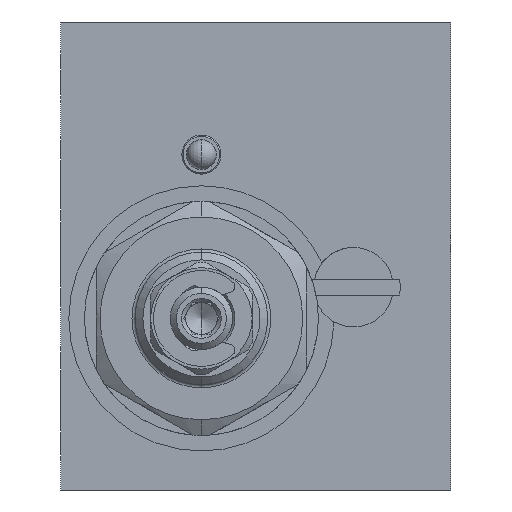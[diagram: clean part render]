
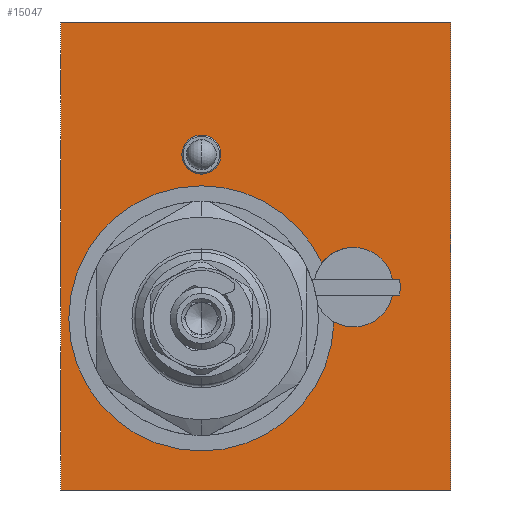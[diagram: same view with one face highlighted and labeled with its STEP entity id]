
A CAD part, left-side view. The second image highlights one B-rep face of the part: STEP entity #15047.
In plain terms, the highlighted planar face has unit normal (-1, 0, 0).
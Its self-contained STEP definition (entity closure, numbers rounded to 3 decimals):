
#146 = CARTESIAN_POINT ( 'NONE',  ( 0., 50., 0. ) ) ;
#383 = AXIS2_PLACEMENT_3D ( 'NONE', #9910, #11465, #18829 ) ;
#390 = CARTESIAN_POINT ( 'NONE',  ( 0., 6.584, 27. ) ) ;
#711 = EDGE_CURVE ( 'NONE', #12203, #8414, #2239, .T. ) ;
#778 = VECTOR ( 'NONE', #17911, 1000. ) ;
#1016 = VECTOR ( 'NONE', #19209, 1000. ) ;
#1263 = AXIS2_PLACEMENT_3D ( 'NONE', #16451, #16175, #16111 ) ;
#1472 = CARTESIAN_POINT ( 'NONE',  ( 0., 50., 60. ) ) ;
#1587 = CARTESIAN_POINT ( 'NONE',  ( 0., 16.552, 29.097 ) ) ;
#1720 = EDGE_CURVE ( 'NONE', #9050, #2004, #9265, .T. ) ;
#1901 = DIRECTION ( 'NONE',  ( 0., 0., 1. ) ) ;
#2004 = VERTEX_POINT ( 'NONE', #7353 ) ;
#2042 = DIRECTION ( 'NONE',  ( 0., 0., 1. ) ) ;
#2043 = EDGE_LOOP ( 'NONE', ( #3044, #17497 ) ) ;
#2239 = CIRCLE ( 'NONE', #12081, 17. ) ;
#2337 = DIRECTION ( 'NONE',  ( 0., 0., 1. ) ) ;
#2360 = DIRECTION ( 'NONE',  ( -1., 0., 0. ) ) ;
#2397 = CARTESIAN_POINT ( 'NONE',  ( 0., 12.5, 26. ) ) ;
#2519 = DIRECTION ( 'NONE',  ( -1., 0., 0. ) ) ;
#2631 = VERTEX_POINT ( 'NONE', #11890 ) ;
#2843 = LINE ( 'NONE', #14797, #14367 ) ;
#3009 = CARTESIAN_POINT ( 'NONE',  ( 0., 0., 0. ) ) ;
#3044 = ORIENTED_EDGE ( 'NONE', *, *, #15667, .F. ) ;
#3121 = CARTESIAN_POINT ( 'NONE',  ( 0., 0., 60. ) ) ;
#3289 = EDGE_CURVE ( 'NONE', #5112, #3503, #6640, .T. ) ;
#3344 = CARTESIAN_POINT ( 'NONE',  ( 0., 32., 40.5 ) ) ;
#3503 = VERTEX_POINT ( 'NONE', #3009 ) ;
#3542 = EDGE_CURVE ( 'NONE', #13282, #2631, #8983, .T. ) ;
#3557 = FACE_BOUND ( 'NONE', #13156, .T. ) ;
#3607 = EDGE_LOOP ( 'NONE', ( #17284, #15245, #16718, #10897 ) ) ;
#4497 = FACE_OUTER_BOUND ( 'NONE', #3607, .T. ) ;
#4922 = ORIENTED_EDGE ( 'NONE', *, *, #6705, .F. ) ;
#4951 = CIRCLE ( 'NONE', #1263, 6. ) ;
#5112 = VERTEX_POINT ( 'NONE', #14963 ) ;
#5190 = CARTESIAN_POINT ( 'NONE',  ( 0., 6.584, 25. ) ) ;
#6353 = EDGE_CURVE ( 'NONE', #8345, #13885, #11504, .T. ) ;
#6361 = CARTESIAN_POINT ( 'NONE',  ( 0., 12.5, 26. ) ) ;
#6532 = EDGE_CURVE ( 'NONE', #8414, #2004, #16354, .T. ) ;
#6640 = LINE ( 'NONE', #16291, #9490 ) ;
#6691 = AXIS2_PLACEMENT_3D ( 'NONE', #7893, #9413, #11089 ) ;
#6696 = DIRECTION ( 'NONE',  ( -1., 0., 0. ) ) ;
#6705 = EDGE_CURVE ( 'NONE', #9050, #14448, #4951, .T. ) ;
#6710 = LINE ( 'NONE', #16244, #18133 ) ;
#6995 = CIRCLE ( 'NONE', #17498, 17. ) ;
#7353 = CARTESIAN_POINT ( 'NONE',  ( 0., 7.499, 25. ) ) ;
#7392 = DIRECTION ( 'NONE',  ( 0., 0., 1. ) ) ;
#7393 = DIRECTION ( 'NONE',  ( 0., 0., -1. ) ) ;
#7546 = FACE_BOUND ( 'NONE', #2043, .T. ) ;
#7828 = LINE ( 'NONE', #1472, #12332 ) ;
#7829 = DIRECTION ( 'NONE',  ( 0., 0., -1. ) ) ;
#7889 = DIRECTION ( 'NONE',  ( -1., 0., 0. ) ) ;
#7893 = CARTESIAN_POINT ( 'NONE',  ( 0., 12.5, 26. ) ) ;
#8335 = EDGE_CURVE ( 'NONE', #2631, #12203, #6995, .T. ) ;
#8345 = VERTEX_POINT ( 'NONE', #3344 ) ;
#8414 = VERTEX_POINT ( 'NONE', #9200 ) ;
#8704 = ORIENTED_EDGE ( 'NONE', *, *, #6532, .F. ) ;
#8983 = CIRCLE ( 'NONE', #15022, 17. ) ;
#9050 = VERTEX_POINT ( 'NONE', #5190 ) ;
#9200 = CARTESIAN_POINT ( 'NONE',  ( 0., 15.006, 21.558 ) ) ;
#9265 = LINE ( 'NONE', #10526, #778 ) ;
#9286 = CIRCLE ( 'NONE', #17022, 2.5 ) ;
#9361 = CARTESIAN_POINT ( 'NONE',  ( 0., 0., 60. ) ) ;
#9413 = DIRECTION ( 'NONE',  ( -1., 0., 0. ) ) ;
#9490 = VECTOR ( 'NONE', #7393, 1000. ) ;
#9503 = LINE ( 'NONE', #3121, #1016 ) ;
#9816 = ORIENTED_EDGE ( 'NONE', *, *, #1720, .T. ) ;
#9846 = CIRCLE ( 'NONE', #19201, 5.1 ) ;
#9910 = CARTESIAN_POINT ( 'NONE',  ( 0., 32., 43. ) ) ;
#9994 = CARTESIAN_POINT ( 'NONE',  ( 0., 12.5, 31.1 ) ) ;
#10007 = VERTEX_POINT ( 'NONE', #9994 ) ;
#10136 = DIRECTION ( 'NONE',  ( 0., 1., 0. ) ) ;
#10309 = VERTEX_POINT ( 'NONE', #10941 ) ;
#10331 = ORIENTED_EDGE ( 'NONE', *, *, #11964, .F. ) ;
#10526 = CARTESIAN_POINT ( 'NONE',  ( 0., 0., 25. ) ) ;
#10531 = CARTESIAN_POINT ( 'NONE',  ( 0., 32., 22. ) ) ;
#10897 = ORIENTED_EDGE ( 'NONE', *, *, #14101, .T. ) ;
#10937 = AXIS2_PLACEMENT_3D ( 'NONE', #9361, #18273, #7829 ) ;
#10941 = CARTESIAN_POINT ( 'NONE',  ( 0., 7.499, 27. ) ) ;
#11089 = DIRECTION ( 'NONE',  ( 0., 0., 1. ) ) ;
#11133 = AXIS2_PLACEMENT_3D ( 'NONE', #2397, #2360, #2337 ) ;
#11465 = DIRECTION ( 'NONE',  ( -1., 0., 0. ) ) ;
#11504 = CIRCLE ( 'NONE', #383, 2.5 ) ;
#11823 = DIRECTION ( 'NONE',  ( 0., 0., 1. ) ) ;
#11890 = CARTESIAN_POINT ( 'NONE',  ( 0., 32., 39. ) ) ;
#11964 = EDGE_CURVE ( 'NONE', #14448, #10309, #2843, .T. ) ;
#11967 = DIRECTION ( 'NONE',  ( 0., 0., 1. ) ) ;
#12046 = DIRECTION ( 'NONE',  ( -1., 0., 0. ) ) ;
#12081 = AXIS2_PLACEMENT_3D ( 'NONE', #14615, #2519, #11823 ) ;
#12092 = ORIENTED_EDGE ( 'NONE', *, *, #17441, .F. ) ;
#12203 = VERTEX_POINT ( 'NONE', #17578 ) ;
#12332 = VECTOR ( 'NONE', #19415, 1000. ) ;
#12530 = EDGE_CURVE ( 'NONE', #13728, #5112, #9503, .T. ) ;
#12912 = ORIENTED_EDGE ( 'NONE', *, *, #8335, .F. ) ;
#13156 = EDGE_LOOP ( 'NONE', ( #10331, #4922, #9816, #8704, #14612, #12912, #16868, #13529, #12092 ) ) ;
#13282 = VERTEX_POINT ( 'NONE', #1587 ) ;
#13445 = DIRECTION ( 'NONE',  ( -1., 0., 0. ) ) ;
#13529 = ORIENTED_EDGE ( 'NONE', *, *, #13888, .F. ) ;
#13728 = VERTEX_POINT ( 'NONE', #18274 ) ;
#13885 = VERTEX_POINT ( 'NONE', #15235 ) ;
#13888 = EDGE_CURVE ( 'NONE', #10007, #13282, #13899, .T. ) ;
#13899 = CIRCLE ( 'NONE', #6691, 5.1 ) ;
#14101 = EDGE_CURVE ( 'NONE', #13728, #14605, #7828, .T. ) ;
#14367 = VECTOR ( 'NONE', #10136, 1000. ) ;
#14448 = VERTEX_POINT ( 'NONE', #390 ) ;
#14605 = VERTEX_POINT ( 'NONE', #146 ) ;
#14612 = ORIENTED_EDGE ( 'NONE', *, *, #711, .F. ) ;
#14615 = CARTESIAN_POINT ( 'NONE',  ( 0., 32., 22. ) ) ;
#14797 = CARTESIAN_POINT ( 'NONE',  ( 0., 0., 27. ) ) ;
#14931 = CARTESIAN_POINT ( 'NONE',  ( 0., 32., 22. ) ) ;
#14963 = CARTESIAN_POINT ( 'NONE',  ( 0., 0., 60. ) ) ;
#15022 = AXIS2_PLACEMENT_3D ( 'NONE', #14931, #13445, #11967 ) ;
#15047 = ADVANCED_FACE ( 'NONE', ( #4497, #7546, #3557 ), #18330, .F. ) ;
#15235 = CARTESIAN_POINT ( 'NONE',  ( 0., 32., 45.5 ) ) ;
#15245 = ORIENTED_EDGE ( 'NONE', *, *, #3289, .F. ) ;
#15667 = EDGE_CURVE ( 'NONE', #13885, #8345, #9286, .T. ) ;
#16092 = EDGE_CURVE ( 'NONE', #14605, #3503, #6710, .T. ) ;
#16111 = DIRECTION ( 'NONE',  ( 0., 0., -1. ) ) ;
#16175 = DIRECTION ( 'NONE',  ( -1., 0., 0. ) ) ;
#16244 = CARTESIAN_POINT ( 'NONE',  ( 0., 0., 0. ) ) ;
#16291 = CARTESIAN_POINT ( 'NONE',  ( 0., 0., 60. ) ) ;
#16317 = DIRECTION ( 'NONE',  ( 0., -1., 0. ) ) ;
#16354 = CIRCLE ( 'NONE', #11133, 5.1 ) ;
#16451 = CARTESIAN_POINT ( 'NONE',  ( 0., 12.5, 26. ) ) ;
#16718 = ORIENTED_EDGE ( 'NONE', *, *, #12530, .F. ) ;
#16868 = ORIENTED_EDGE ( 'NONE', *, *, #3542, .F. ) ;
#17022 = AXIS2_PLACEMENT_3D ( 'NONE', #19009, #6696, #2042 ) ;
#17284 = ORIENTED_EDGE ( 'NONE', *, *, #16092, .T. ) ;
#17441 = EDGE_CURVE ( 'NONE', #10309, #10007, #9846, .T. ) ;
#17497 = ORIENTED_EDGE ( 'NONE', *, *, #6353, .F. ) ;
#17498 = AXIS2_PLACEMENT_3D ( 'NONE', #10531, #12046, #7392 ) ;
#17578 = CARTESIAN_POINT ( 'NONE',  ( 0., 32., 5. ) ) ;
#17911 = DIRECTION ( 'NONE',  ( 0., 1., 0. ) ) ;
#18133 = VECTOR ( 'NONE', #16317, 1000. ) ;
#18273 = DIRECTION ( 'NONE',  ( 1., 0., 0. ) ) ;
#18274 = CARTESIAN_POINT ( 'NONE',  ( 0., 50., 60. ) ) ;
#18330 = PLANE ( 'NONE',  #10937 ) ;
#18829 = DIRECTION ( 'NONE',  ( 0., 0., 1. ) ) ;
#19009 = CARTESIAN_POINT ( 'NONE',  ( 0., 32., 43. ) ) ;
#19201 = AXIS2_PLACEMENT_3D ( 'NONE', #6361, #7889, #1901 ) ;
#19209 = DIRECTION ( 'NONE',  ( 0., -1., 0. ) ) ;
#19415 = DIRECTION ( 'NONE',  ( 0., 0., -1. ) ) ;
